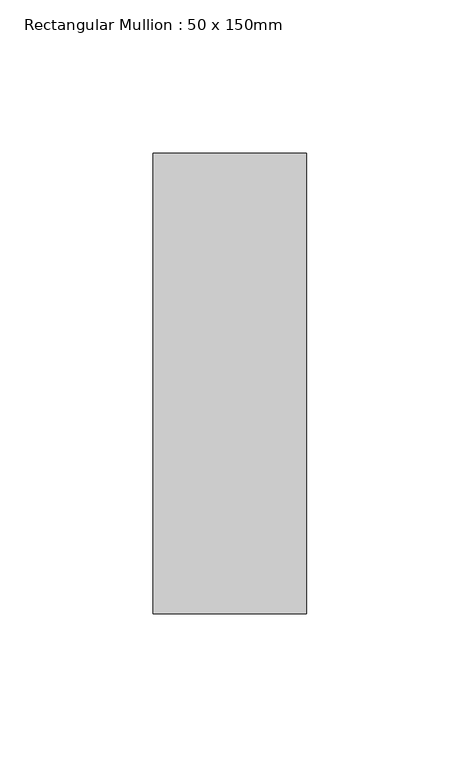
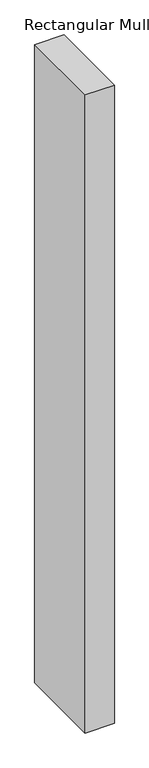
"""IFC4 building model written with IfcOpenShell, lengths in millimetres: member geometry, Rectangular Mullion : 50 x 150mm."""

from ifc_helpers import new_model, si_unit, frame, origin, place, context, project, spatial, polyline, outline, extrude, source, transform, mapped, element, save


def rectangular_mullion_50_x_150mm_81a85930(model_context):
    return source(origin(), model_context, "Body", "SweptSolid", [
        extrude(outline(polyline([(25.0, 75.0), (25.0, -75.0), (-25.0, -75.0), (-25.0, 75.0), (25.0, 75.0)])), frame((0.0, 0.0, -1157.1428571), z_axis=(0.0, 0.0, 1.0), x_axis=(1.0, 0.0, 0.0)), (0.0, 0.0, 1.0), 1157.1428571),
    ])


if __name__ == "__main__":
    model = new_model("IFC4")
    model_context = context("Model", 3, world=origin())
    ifc_project = project(units=[si_unit("LENGTHUNIT", "METRE", prefix="MILLI")], contexts=[model_context])
    site = spatial("IfcSite", under=ifc_project)
    building = spatial("IfcBuilding", under=site)
    placement = place(None, origin())
    rectangular_mullion_50_x_150mm_shape = rectangular_mullion_50_x_150mm_81a85930(model_context)
    element("IfcMember", 1, ObjectType="Rectangular Mullion : 50 x 150mm", at=placement, inside=building, context=model_context, shape_type="MappedRepresentation", body=[
        mapped(rectangular_mullion_50_x_150mm_shape, transform((0.0, 0.0, 0.0), x_axis=(1.0, 0.0, 0.0), y_axis=(0.0, 1.0, 0.0), z_axis=(0.0, 0.0, 1.0))),
    ])
    save(model, "model.ifc")
